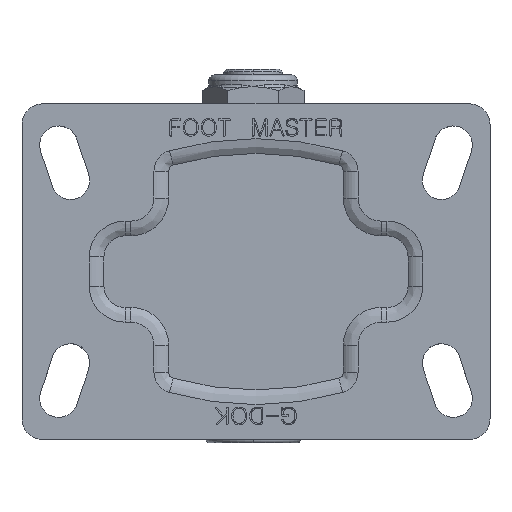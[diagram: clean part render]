
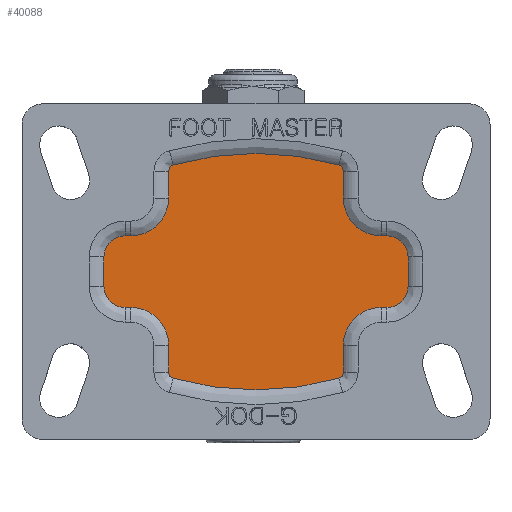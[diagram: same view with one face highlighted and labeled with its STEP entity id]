
A CAD part, top view. The second image highlights one B-rep face of the part: STEP entity #40088.
In plain terms, the highlighted planar face has unit normal (0, 0, 1).
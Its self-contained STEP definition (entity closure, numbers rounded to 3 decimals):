
#38400=CARTESIAN_POINT('',(-51.662,-5.,2.5));
#38401=VERTEX_POINT('',#38400);
#38418=CARTESIAN_POINT('',(-44.5,-12.162,2.5));
#38419=VERTEX_POINT('',#38418);
#38427=CARTESIAN_POINT('',(-44.5,-5.,2.5));
#38428=DIRECTION('',(0.0,0.0,1.0));
#38429=DIRECTION('',(1.0,0.0,0.0));
#38430=AXIS2_PLACEMENT_3D('',#38427,#38428,#38429);
#38431=CIRCLE('',#38430,7.162);
#38432=EDGE_CURVE('',#38401,#38419,#38431,.T.);
#38451=CARTESIAN_POINT('',(-42.5,-12.162,2.5));
#38452=VERTEX_POINT('',#38451);
#38460=CARTESIAN_POINT('',(-44.5,-12.162,2.5));
#38461=DIRECTION('',(1.0,0.0,0.0));
#38462=VECTOR('',#38461,2.);
#38463=LINE('',#38460,#38462);
#38464=EDGE_CURVE('',#38419,#38452,#38463,.T.);
#38514=CARTESIAN_POINT('',(-29.662,-25.,2.5));
#38515=VERTEX_POINT('',#38514);
#38523=CARTESIAN_POINT('',(-42.5,-25.,2.5));
#38524=DIRECTION('',(0.0,0.0,-1.0));
#38525=DIRECTION('',(1.0,0.0,0.0));
#38526=AXIS2_PLACEMENT_3D('',#38523,#38524,#38525);
#38527=CIRCLE('',#38526,12.838);
#38528=EDGE_CURVE('',#38452,#38515,#38527,.T.);
#38547=CARTESIAN_POINT('',(-29.662,-34.164,2.5));
#38548=VERTEX_POINT('',#38547);
#38556=CARTESIAN_POINT('',(-29.662,-25.,2.5));
#38557=DIRECTION('',(0.0,-1.0,0.0));
#38558=VECTOR('',#38557,9.164);
#38559=LINE('',#38556,#38558);
#38560=EDGE_CURVE('',#38515,#38548,#38559,.T.);
#38592=CARTESIAN_POINT('',(-28.092,-36.244,2.5));
#38593=VERTEX_POINT('',#38592);
#38601=CARTESIAN_POINT('',(-27.5,-34.164,2.5));
#38602=DIRECTION('',(0.0,0.0,1.0));
#38603=DIRECTION('',(1.0,0.0,0.0));
#38604=AXIS2_PLACEMENT_3D('',#38601,#38602,#38603);
#38605=CIRCLE('',#38604,2.162);
#38606=EDGE_CURVE('',#38548,#38593,#38605,.T.);
#38638=CARTESIAN_POINT('',(28.092,-36.244,2.5));
#38639=VERTEX_POINT('',#38638);
#38647=CARTESIAN_POINT('',(0.,62.5,2.5));
#38648=DIRECTION('',(0.0,0.0,1.0));
#38649=DIRECTION('',(1.0,0.0,0.0));
#38650=AXIS2_PLACEMENT_3D('',#38647,#38648,#38649);
#38651=CIRCLE('',#38650,102.662);
#38652=EDGE_CURVE('',#38593,#38639,#38651,.T.);
#38684=CARTESIAN_POINT('',(29.662,-34.164,2.5));
#38685=VERTEX_POINT('',#38684);
#38693=CARTESIAN_POINT('',(27.5,-34.164,2.5));
#38694=DIRECTION('',(0.0,0.0,1.0));
#38695=DIRECTION('',(1.0,0.0,0.0));
#38696=AXIS2_PLACEMENT_3D('',#38693,#38694,#38695);
#38697=CIRCLE('',#38696,2.162);
#38698=EDGE_CURVE('',#38639,#38685,#38697,.T.);
#38717=CARTESIAN_POINT('',(29.662,-25.,2.5));
#38718=VERTEX_POINT('',#38717);
#38726=CARTESIAN_POINT('',(29.662,-34.164,2.5));
#38727=DIRECTION('',(0.0,1.0,0.0));
#38728=VECTOR('',#38727,9.164);
#38729=LINE('',#38726,#38728);
#38730=EDGE_CURVE('',#38685,#38718,#38729,.T.);
#38780=CARTESIAN_POINT('',(42.5,-12.162,2.5));
#38781=VERTEX_POINT('',#38780);
#38789=CARTESIAN_POINT('',(42.5,-25.,2.5));
#38790=DIRECTION('',(0.0,0.0,-1.0));
#38791=DIRECTION('',(1.0,0.0,0.0));
#38792=AXIS2_PLACEMENT_3D('',#38789,#38790,#38791);
#38793=CIRCLE('',#38792,12.838);
#38794=EDGE_CURVE('',#38718,#38781,#38793,.T.);
#38813=CARTESIAN_POINT('',(44.5,-12.162,2.5));
#38814=VERTEX_POINT('',#38813);
#38822=CARTESIAN_POINT('',(42.5,-12.162,2.5));
#38823=DIRECTION('',(1.0,0.0,0.0));
#38824=VECTOR('',#38823,2.);
#38825=LINE('',#38822,#38824);
#38826=EDGE_CURVE('',#38781,#38814,#38825,.T.);
#38876=CARTESIAN_POINT('',(51.662,-5.,2.5));
#38877=VERTEX_POINT('',#38876);
#38885=CARTESIAN_POINT('',(44.5,-5.,2.5));
#38886=DIRECTION('',(0.0,0.0,1.0));
#38887=DIRECTION('',(1.0,0.0,0.0));
#38888=AXIS2_PLACEMENT_3D('',#38885,#38886,#38887);
#38889=CIRCLE('',#38888,7.162);
#38890=EDGE_CURVE('',#38814,#38877,#38889,.T.);
#38909=CARTESIAN_POINT('',(51.662,5.,2.5));
#38910=VERTEX_POINT('',#38909);
#38918=CARTESIAN_POINT('',(51.662,-5.,2.5));
#38919=DIRECTION('',(0.0,1.0,0.0));
#38920=VECTOR('',#38919,10.);
#38921=LINE('',#38918,#38920);
#38922=EDGE_CURVE('',#38877,#38910,#38921,.T.);
#38972=CARTESIAN_POINT('',(44.5,12.162,2.5));
#38973=VERTEX_POINT('',#38972);
#38981=CARTESIAN_POINT('',(44.5,5.,2.5));
#38982=DIRECTION('',(0.0,0.0,1.0));
#38983=DIRECTION('',(1.0,0.0,0.0));
#38984=AXIS2_PLACEMENT_3D('',#38981,#38982,#38983);
#38985=CIRCLE('',#38984,7.162);
#38986=EDGE_CURVE('',#38910,#38973,#38985,.T.);
#39005=CARTESIAN_POINT('',(42.5,12.162,2.5));
#39006=VERTEX_POINT('',#39005);
#39014=CARTESIAN_POINT('',(44.5,12.162,2.5));
#39015=DIRECTION('',(-1.0,0.0,0.0));
#39016=VECTOR('',#39015,2.);
#39017=LINE('',#39014,#39016);
#39018=EDGE_CURVE('',#38973,#39006,#39017,.T.);
#39068=CARTESIAN_POINT('',(29.662,25.,2.5));
#39069=VERTEX_POINT('',#39068);
#39077=CARTESIAN_POINT('',(42.5,25.,2.5));
#39078=DIRECTION('',(0.0,0.0,-1.0));
#39079=DIRECTION('',(1.0,0.0,0.0));
#39080=AXIS2_PLACEMENT_3D('',#39077,#39078,#39079);
#39081=CIRCLE('',#39080,12.838);
#39082=EDGE_CURVE('',#39006,#39069,#39081,.T.);
#39101=CARTESIAN_POINT('',(29.662,34.164,2.5));
#39102=VERTEX_POINT('',#39101);
#39110=CARTESIAN_POINT('',(29.662,25.,2.5));
#39111=DIRECTION('',(0.0,1.0,0.0));
#39112=VECTOR('',#39111,9.164);
#39113=LINE('',#39110,#39112);
#39114=EDGE_CURVE('',#39069,#39102,#39113,.T.);
#39146=CARTESIAN_POINT('',(28.092,36.244,2.5));
#39147=VERTEX_POINT('',#39146);
#39155=CARTESIAN_POINT('',(27.5,34.164,2.5));
#39156=DIRECTION('',(0.0,0.0,1.0));
#39157=DIRECTION('',(1.0,0.0,0.0));
#39158=AXIS2_PLACEMENT_3D('',#39155,#39156,#39157);
#39159=CIRCLE('',#39158,2.162);
#39160=EDGE_CURVE('',#39102,#39147,#39159,.T.);
#39192=CARTESIAN_POINT('',(-28.092,36.244,2.5));
#39193=VERTEX_POINT('',#39192);
#39201=CARTESIAN_POINT('',(0.,-62.5,2.5));
#39202=DIRECTION('',(0.0,0.0,1.0));
#39203=DIRECTION('',(1.0,0.0,0.0));
#39204=AXIS2_PLACEMENT_3D('',#39201,#39202,#39203);
#39205=CIRCLE('',#39204,102.662);
#39206=EDGE_CURVE('',#39147,#39193,#39205,.T.);
#39238=CARTESIAN_POINT('',(-29.662,34.164,2.5));
#39239=VERTEX_POINT('',#39238);
#39247=CARTESIAN_POINT('',(-27.5,34.164,2.5));
#39248=DIRECTION('',(0.0,0.0,1.0));
#39249=DIRECTION('',(1.0,0.0,0.0));
#39250=AXIS2_PLACEMENT_3D('',#39247,#39248,#39249);
#39251=CIRCLE('',#39250,2.162);
#39252=EDGE_CURVE('',#39193,#39239,#39251,.T.);
#39271=CARTESIAN_POINT('',(-29.662,25.,2.5));
#39272=VERTEX_POINT('',#39271);
#39280=CARTESIAN_POINT('',(-29.662,34.164,2.5));
#39281=DIRECTION('',(0.0,-1.0,0.0));
#39282=VECTOR('',#39281,9.164);
#39283=LINE('',#39280,#39282);
#39284=EDGE_CURVE('',#39239,#39272,#39283,.T.);
#39334=CARTESIAN_POINT('',(-42.5,12.162,2.5));
#39335=VERTEX_POINT('',#39334);
#39343=CARTESIAN_POINT('',(-42.5,25.,2.5));
#39344=DIRECTION('',(0.0,0.0,-1.0));
#39345=DIRECTION('',(1.0,0.0,0.0));
#39346=AXIS2_PLACEMENT_3D('',#39343,#39344,#39345);
#39347=CIRCLE('',#39346,12.838);
#39348=EDGE_CURVE('',#39272,#39335,#39347,.T.);
#39367=CARTESIAN_POINT('',(-44.5,12.162,2.5));
#39368=VERTEX_POINT('',#39367);
#39376=CARTESIAN_POINT('',(-42.5,12.162,2.5));
#39377=DIRECTION('',(-1.0,0.0,0.0));
#39378=VECTOR('',#39377,2.);
#39379=LINE('',#39376,#39378);
#39380=EDGE_CURVE('',#39335,#39368,#39379,.T.);
#39430=CARTESIAN_POINT('',(-51.662,5.,2.5));
#39431=VERTEX_POINT('',#39430);
#39439=CARTESIAN_POINT('',(-44.5,5.,2.5));
#39440=DIRECTION('',(0.0,0.0,1.0));
#39441=DIRECTION('',(1.0,0.0,0.0));
#39442=AXIS2_PLACEMENT_3D('',#39439,#39440,#39441);
#39443=CIRCLE('',#39442,7.162);
#39444=EDGE_CURVE('',#39368,#39431,#39443,.T.);
#39462=CARTESIAN_POINT('',(-51.662,5.,2.5));
#39463=DIRECTION('',(0.0,-1.0,0.0));
#39464=VECTOR('',#39463,10.0);
#39465=LINE('',#39462,#39464);
#39466=EDGE_CURVE('',#39431,#38401,#39465,.T.);
#40057=CARTESIAN_POINT('',(0.,0.,2.5));
#40058=DIRECTION('',(0.0,0.0,1.0));
#40059=DIRECTION('',(1.0,0.0,0.0));
#40060=AXIS2_PLACEMENT_3D('',#40057,#40058,#40059);
#40061=PLANE('',#40060);
#40062=ORIENTED_EDGE('',*,*,#38606,.T.);
#40063=ORIENTED_EDGE('',*,*,#38652,.T.);
#40064=ORIENTED_EDGE('',*,*,#38698,.T.);
#40065=ORIENTED_EDGE('',*,*,#38730,.T.);
#40066=ORIENTED_EDGE('',*,*,#38794,.T.);
#40067=ORIENTED_EDGE('',*,*,#38826,.T.);
#40068=ORIENTED_EDGE('',*,*,#38890,.T.);
#40069=ORIENTED_EDGE('',*,*,#38922,.T.);
#40070=ORIENTED_EDGE('',*,*,#38986,.T.);
#40071=ORIENTED_EDGE('',*,*,#39018,.T.);
#40072=ORIENTED_EDGE('',*,*,#39082,.T.);
#40073=ORIENTED_EDGE('',*,*,#39114,.T.);
#40074=ORIENTED_EDGE('',*,*,#39160,.T.);
#40075=ORIENTED_EDGE('',*,*,#39206,.T.);
#40076=ORIENTED_EDGE('',*,*,#39252,.T.);
#40077=ORIENTED_EDGE('',*,*,#39284,.T.);
#40078=ORIENTED_EDGE('',*,*,#39348,.T.);
#40079=ORIENTED_EDGE('',*,*,#39380,.T.);
#40080=ORIENTED_EDGE('',*,*,#39444,.T.);
#40081=ORIENTED_EDGE('',*,*,#39466,.T.);
#40082=ORIENTED_EDGE('',*,*,#38432,.T.);
#40083=ORIENTED_EDGE('',*,*,#38464,.T.);
#40084=ORIENTED_EDGE('',*,*,#38528,.T.);
#40085=ORIENTED_EDGE('',*,*,#38560,.T.);
#40086=EDGE_LOOP('',(#40062,#40063,#40064,#40065,#40066,#40067,#40068,#40069,#40070,#40071,#40072,#40073,#40074,#40075,#40076,#40077,#40078,#40079,#40080,#40081,#40082,#40083,#40084,#40085));
#40087=FACE_OUTER_BOUND('',#40086,.T.);
#40088=ADVANCED_FACE('',(#40087),#40061,.T.);
